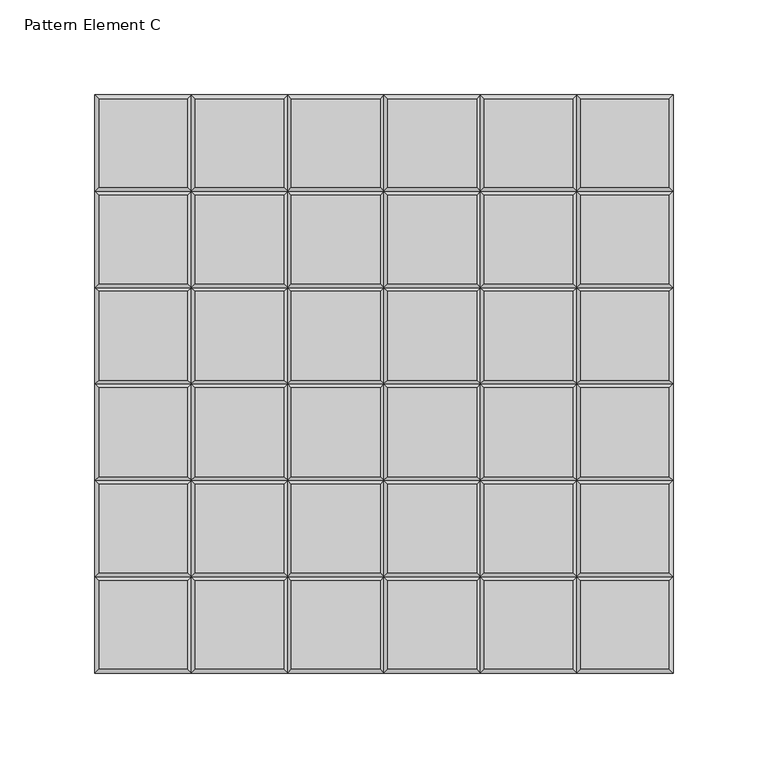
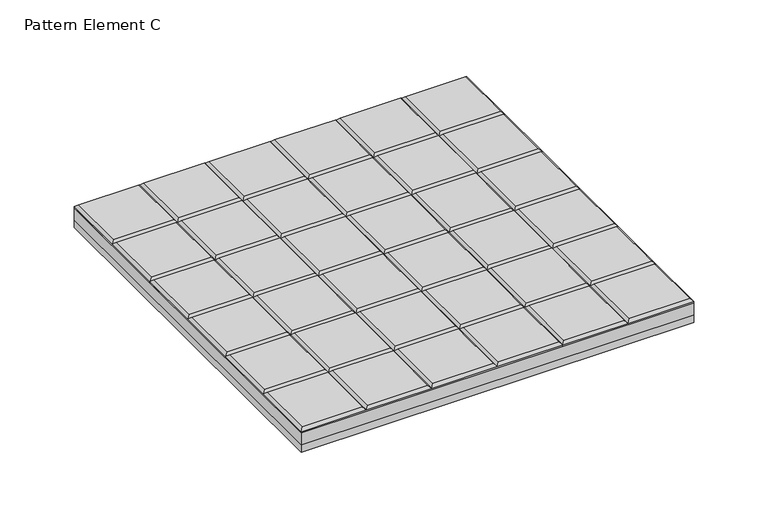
"""IFC4 building model written with IfcOpenShell, lengths in millimetres: proxy geometry, FilzFelt_Waffle_Manufacturing Drawing : Pattern Element C."""

from ifc_helpers import new_model, si_unit, frame, origin, origin_with_axes, place, context, project, spatial, polyline, outline, extrude, faceted_brep, source, transform, mapped, element, save


def pattern_element_c_66ba2969(model_context):
    return source(origin(), model_context, "Body", "SolidModel", [
        faceted_brep([(150.4, -150.4, 19.0), (152.4, -152.4, 17.0), (152.4, -101.6, 17.0), (150.4, -103.6, 19.0), (152.4, 152.4, 17.0), (150.4, 150.4, 19.0), (150.4, 103.6, 19.0), (152.4, 101.6, 17.0), (150.4, -52.8, 19.0), (150.4, -99.6, 19.0), (152.4, -50.8, 17.0), (150.4, -2.0, 19.0), (150.4, -48.8, 19.0), (152.4, 0.0, 17.0), (150.4, 48.8, 19.0), (150.4, 2.0, 19.0), (152.4, 50.8, 17.0), (150.4, 99.6, 19.0), (150.4, 52.8, 19.0), (103.6, -150.4, 19.0), (101.6, -152.4, 17.0), (99.6, -150.4, 19.0), (52.8, -150.4, 19.0), (50.8, -152.4, 17.0), (-150.4, 150.4, 19.0), (-152.4, 152.4, 17.0), (-152.4, 101.6, 17.0), (-150.4, 103.6, 19.0), (-150.4, 52.8, 19.0), (-150.4, 99.6, 19.0), (-152.4, 50.8, 17.0), (101.6, 152.4, 17.0), (103.6, 150.4, 19.0), (-103.6, 150.4, 19.0), (-101.6, 152.4, 17.0), (-99.6, 150.4, 19.0), (-52.8, 150.4, 19.0), (-50.8, 152.4, 17.0), (-48.8, 150.4, 19.0), (-2.0, 150.4, 19.0), (0.0, 152.4, 17.0), (2.0, 150.4, 19.0), (48.8, 150.4, 19.0), (50.8, 152.4, 17.0), (52.8, 150.4, 19.0), (99.6, 150.4, 19.0), (103.6, -103.6, 19.0), (103.6, 103.6, 19.0), (103.6, -52.8, 19.0), (103.6, -99.6, 19.0), (103.6, -2.0, 19.0), (103.6, -48.8, 19.0), (103.6, 48.8, 19.0), (103.6, 2.0, 19.0), (103.6, 99.6, 19.0), (103.6, 52.8, 19.0), (99.6, -103.6, 19.0), (52.8, -103.6, 19.0), (-103.6, 103.6, 19.0), (-103.6, 52.8, 19.0), (-103.6, 99.6, 19.0), (-99.6, 103.6, 19.0), (-52.8, 103.6, 19.0), (-48.8, 103.6, 19.0), (-2.0, 103.6, 19.0), (2.0, 103.6, 19.0), (48.8, 103.6, 19.0), (52.8, 103.6, 19.0), (99.6, 103.6, 19.0), (52.8, -99.6, 19.0), (99.6, -99.6, 19.0), (99.6, -52.8, 19.0), (52.8, -52.8, 19.0), (52.8, -48.8, 19.0), (99.6, -48.8, 19.0), (99.6, -2.0, 19.0), (52.8, -2.0, 19.0), (52.8, 2.0, 19.0), (99.6, 2.0, 19.0), (99.6, 48.8, 19.0), (52.8, 48.8, 19.0), (-52.8, 99.6, 19.0), (-99.6, 99.6, 19.0), (-99.6, 52.8, 19.0), (-52.8, 52.8, 19.0), (-2.0, 99.6, 19.0), (-48.8, 99.6, 19.0), (-48.8, 52.8, 19.0), (-2.0, 52.8, 19.0), (48.8, 99.6, 19.0), (2.0, 99.6, 19.0), (2.0, 52.8, 19.0), (48.8, 52.8, 19.0), (99.6, 99.6, 19.0), (52.8, 99.6, 19.0), (52.8, 52.8, 19.0), (99.6, 52.8, 19.0), (-152.4, 152.4, 16.0), (152.4, 152.4, 16.0), (152.4, -152.4, 16.0), (50.8, -152.4, 16.0), (50.8, 50.8, 16.0), (-152.4, 50.8, 16.0), (50.8, -101.6, 17.0), (50.8, -50.8, 17.0), (50.8, 0.0, 17.0), (50.8, 50.8, 17.0), (0.0, 50.8, 17.0), (-50.8, 50.8, 17.0), (-101.6, 50.8, 17.0), (101.6, -101.6, 17.0), (101.6, -50.8, 17.0), (101.6, 0.0, 17.0), (101.6, 50.8, 17.0), (101.6, 101.6, 17.0), (-101.6, 101.6, 17.0), (-50.8, 101.6, 17.0), (0.0, 101.6, 17.0), (50.8, 101.6, 17.0)], [[[0, 1, 2, 3]], [[4, 5, 6, 7]], [[8, 9, 2, 10]], [[11, 12, 10, 13]], [[14, 15, 13, 16]], [[17, 18, 16, 7]], [[1, 0, 19, 20]], [[21, 22, 23, 20]], [[24, 25, 26, 27]], [[28, 29, 26, 30]], [[5, 4, 31, 32]], [[25, 24, 33, 34]], [[35, 36, 37, 34]], [[38, 39, 40, 37]], [[41, 42, 43, 40]], [[44, 45, 31, 43]], [[0, 3, 46, 19]], [[6, 5, 32, 47]], [[9, 8, 48, 49]], [[12, 11, 50, 51]], [[15, 14, 52, 53]], [[18, 17, 54, 55]], [[22, 21, 56, 57]], [[24, 27, 58, 33]], [[29, 28, 59, 60]], [[36, 35, 61, 62]], [[39, 38, 63, 64]], [[42, 41, 65, 66]], [[45, 44, 67, 68]], [[69, 70, 71, 72]], [[73, 74, 75, 76]], [[77, 78, 79, 80]], [[81, 82, 83, 84]], [[85, 86, 87, 88]], [[89, 90, 91, 92]], [[93, 94, 95, 96]], [[97, 98, 99, 100, 101, 102]], [[98, 97, 25, 34, 37, 40, 43, 31, 4]], [[99, 98, 4, 7, 16, 13, 10, 2, 1]], [[100, 99, 1, 20, 23]], [[101, 100, 23, 103, 104, 105, 106]], [[102, 101, 106, 107, 108, 109, 30]], [[97, 102, 30, 26, 25]], [[2, 9, 49, 110]], [[70, 69, 103, 110]], [[3, 2, 110, 46]], [[57, 56, 110, 103]], [[10, 12, 51, 111]], [[74, 73, 104, 111]], [[8, 10, 111, 48]], [[72, 71, 111, 104]], [[13, 15, 53, 112]], [[78, 77, 105, 112]], [[11, 13, 112, 50]], [[76, 75, 112, 105]], [[16, 18, 55, 113]], [[28, 30, 109, 59]], [[84, 83, 109, 108]], [[88, 87, 108, 107]], [[92, 91, 107, 106]], [[96, 95, 106, 113]], [[14, 16, 113, 52]], [[80, 79, 113, 106]], [[7, 6, 47, 114]], [[27, 26, 115, 58]], [[62, 61, 115, 116]], [[64, 63, 116, 117]], [[66, 65, 117, 118]], [[68, 67, 118, 114]], [[17, 7, 114, 54]], [[26, 29, 60, 115]], [[82, 81, 116, 115]], [[86, 85, 117, 116]], [[90, 89, 118, 117]], [[94, 93, 114, 118]], [[34, 115, 61, 35]], [[115, 109, 83, 82]], [[115, 34, 33, 58]], [[109, 115, 60, 59]], [[37, 116, 63, 38]], [[116, 108, 87, 86]], [[116, 37, 36, 62]], [[108, 116, 81, 84]], [[40, 117, 65, 41]], [[117, 107, 91, 90]], [[117, 40, 39, 64]], [[107, 117, 85, 88]], [[22, 57, 103, 23]], [[69, 72, 104, 103]], [[73, 76, 105, 104]], [[77, 80, 106, 105]], [[43, 118, 67, 44]], [[118, 106, 95, 94]], [[118, 43, 42, 66]], [[106, 118, 89, 92]], [[110, 20, 19, 46]], [[111, 110, 49, 48]], [[112, 111, 51, 50]], [[113, 112, 53, 52]], [[31, 114, 47, 32]], [[114, 113, 55, 54]], [[20, 110, 56, 21]], [[110, 111, 71, 70]], [[111, 112, 75, 74]], [[112, 113, 79, 78]], [[114, 31, 45, 68]], [[113, 114, 93, 96]]]),
        faceted_brep([(-150.4, -150.4, 19.0), (-152.4, -152.4, 17.0), (-101.6, -152.4, 17.0), (-103.6, -150.4, 19.0), (-52.8, -150.4, 19.0), (-99.6, -150.4, 19.0), (-50.8, -152.4, 17.0), (-2.0, -150.4, 19.0), (-48.8, -150.4, 19.0), (0.0, -152.4, 17.0), (48.8, -150.4, 19.0), (2.0, -150.4, 19.0), (50.8, -152.4, 17.0), (-150.4, -103.6, 19.0), (-152.4, -101.6, 17.0), (-150.4, -99.6, 19.0), (-150.4, -52.8, 19.0), (-152.4, -50.8, 17.0), (-150.4, -48.8, 19.0), (-150.4, -2.0, 19.0), (-152.4, 0.0, 17.0), (-150.4, 2.0, 19.0), (-150.4, 48.8, 19.0), (-152.4, 50.8, 17.0), (-52.8, -103.6, 19.0), (-99.6, -103.6, 19.0), (-2.0, -103.6, 19.0), (-48.8, -103.6, 19.0), (48.8, -103.6, 19.0), (2.0, -103.6, 19.0), (-103.6, -103.6, 19.0), (-103.6, -99.6, 19.0), (-103.6, -52.8, 19.0), (-103.6, -48.8, 19.0), (-103.6, -2.0, 19.0), (-103.6, 2.0, 19.0), (-103.6, 48.8, 19.0), (-52.8, -52.8, 19.0), (-99.6, -52.8, 19.0), (-99.6, -99.6, 19.0), (-52.8, -99.6, 19.0), (-2.0, -52.8, 19.0), (-48.8, -52.8, 19.0), (-48.8, -99.6, 19.0), (-2.0, -99.6, 19.0), (48.8, -52.8, 19.0), (2.0, -52.8, 19.0), (2.0, -99.6, 19.0), (48.8, -99.6, 19.0), (-52.8, -2.0, 19.0), (-99.6, -2.0, 19.0), (-99.6, -48.8, 19.0), (-52.8, -48.8, 19.0), (-2.0, -2.0, 19.0), (-48.8, -2.0, 19.0), (-48.8, -48.8, 19.0), (-2.0, -48.8, 19.0), (48.8, -2.0, 19.0), (2.0, -2.0, 19.0), (2.0, -48.8, 19.0), (48.8, -48.8, 19.0), (-52.8, 48.8, 19.0), (-99.6, 48.8, 19.0), (-99.6, 2.0, 19.0), (-52.8, 2.0, 19.0), (-2.0, 48.8, 19.0), (-48.8, 48.8, 19.0), (-48.8, 2.0, 19.0), (-2.0, 2.0, 19.0), (48.8, 48.8, 19.0), (2.0, 48.8, 19.0), (2.0, 2.0, 19.0), (48.8, 2.0, 19.0), (50.8, -152.4, 16.0), (-152.4, -152.4, 16.0), (-152.4, 50.8, 16.0), (50.8, 50.8, 16.0), (-101.6, 50.8, 17.0), (-50.8, 50.8, 17.0), (0.0, 50.8, 17.0), (50.8, 50.8, 17.0), (50.8, 0.0, 17.0), (50.8, -50.8, 17.0), (50.8, -101.6, 17.0), (-101.6, -101.6, 17.0), (-50.8, -101.6, 17.0), (0.0, -101.6, 17.0), (-101.6, -50.8, 17.0), (-50.8, -50.8, 17.0), (0.0, -50.8, 17.0), (-101.6, 0.0, 17.0), (-50.8, 0.0, 17.0), (0.0, 0.0, 17.0)], [[[0, 1, 2, 3]], [[4, 5, 2, 6]], [[7, 8, 6, 9]], [[10, 11, 9, 12]], [[1, 0, 13, 14]], [[15, 16, 17, 14]], [[18, 19, 20, 17]], [[21, 22, 23, 20]], [[5, 4, 24, 25]], [[8, 7, 26, 27]], [[11, 10, 28, 29]], [[13, 0, 3, 30]], [[16, 15, 31, 32]], [[19, 18, 33, 34]], [[22, 21, 35, 36]], [[37, 38, 39, 40]], [[41, 42, 43, 44]], [[45, 46, 47, 48]], [[49, 50, 51, 52]], [[53, 54, 55, 56]], [[57, 58, 59, 60]], [[61, 62, 63, 64]], [[65, 66, 67, 68]], [[69, 70, 71, 72]], [[73, 74, 75, 76]], [[74, 73, 12, 9, 6, 2, 1]], [[75, 74, 1, 14, 17, 20, 23]], [[76, 75, 23, 77, 78, 79, 80]], [[73, 76, 80, 81, 82, 83, 12]], [[15, 14, 84, 31]], [[40, 39, 84, 85]], [[44, 43, 85, 86]], [[48, 47, 86, 83]], [[14, 13, 30, 84]], [[25, 24, 85, 84]], [[27, 26, 86, 85]], [[29, 28, 83, 86]], [[18, 17, 87, 33]], [[52, 51, 87, 88]], [[56, 55, 88, 89]], [[60, 59, 89, 82]], [[17, 16, 32, 87]], [[38, 37, 88, 87]], [[42, 41, 89, 88]], [[46, 45, 82, 89]], [[21, 20, 90, 35]], [[64, 63, 90, 91]], [[68, 67, 91, 92]], [[72, 71, 92, 81]], [[20, 19, 34, 90]], [[50, 49, 91, 90]], [[54, 53, 92, 91]], [[58, 57, 81, 92]], [[23, 22, 36, 77]], [[62, 61, 78, 77]], [[66, 65, 79, 78]], [[70, 69, 80, 79]], [[84, 2, 5, 25]], [[87, 84, 39, 38]], [[77, 90, 63, 62]], [[90, 87, 51, 50]], [[2, 84, 30, 3]], [[84, 87, 32, 31]], [[90, 77, 36, 35]], [[87, 90, 34, 33]], [[85, 6, 8, 27]], [[88, 85, 43, 42]], [[78, 91, 67, 66]], [[91, 88, 55, 54]], [[6, 85, 24, 4]], [[85, 88, 37, 40]], [[91, 78, 61, 64]], [[88, 91, 49, 52]], [[86, 9, 11, 29]], [[89, 86, 47, 46]], [[79, 92, 71, 70]], [[92, 89, 59, 58]], [[9, 86, 26, 7]], [[86, 89, 41, 44]], [[92, 79, 65, 68]], [[89, 92, 53, 56]], [[28, 10, 12, 83]], [[45, 48, 83, 82]], [[57, 60, 82, 81]], [[69, 72, 81, 80]]]),
        extrude(outline(polyline([(-152.4, -152.4), (-152.4, 152.4), (152.4, 152.4), (152.4, -152.4), (-152.4, -152.4)])), frame((0.0, 0.0, 6.0), z_axis=(0.0, 0.0, 1.0), x_axis=(1.0, 0.0, 0.0)), (0.0, 0.0, 1.0), 10.0),
        extrude(outline(polyline([(152.4, 152.4), (152.4, -152.4), (-152.4, -152.4), (-152.4, 152.4), (152.4, 152.4)])), origin_with_axes(), (0.0, 0.0, 1.0), 6.0),
    ])


if __name__ == "__main__":
    model = new_model("IFC4")
    model_context = context("Model", 3, world=origin())
    ifc_project = project(units=[si_unit("LENGTHUNIT", "METRE", prefix="MILLI")], contexts=[model_context])
    site = spatial("IfcSite", under=ifc_project)
    building = spatial("IfcBuilding", under=site)
    placement = place(None, origin())
    pattern_element_c_shape = pattern_element_c_66ba2969(model_context)
    element("IfcBuildingElementProxy", 1, Name="FilzFelt_Waffle_Manufacturing Drawing : Pattern Element C", ObjectType="FilzFelt_Waffle_Manufacturing Drawing : Pattern Element C", at=placement, inside=building, context=model_context, shape_type="MappedRepresentation", body=[
        mapped(pattern_element_c_shape, transform((0.0, 0.0, 0.0), x_axis=(1.0, 0.0, 0.0), y_axis=(0.0, 1.0, 0.0), z_axis=(0.0, 0.0, 1.0))),
    ])
    save(model, "model.ifc")
